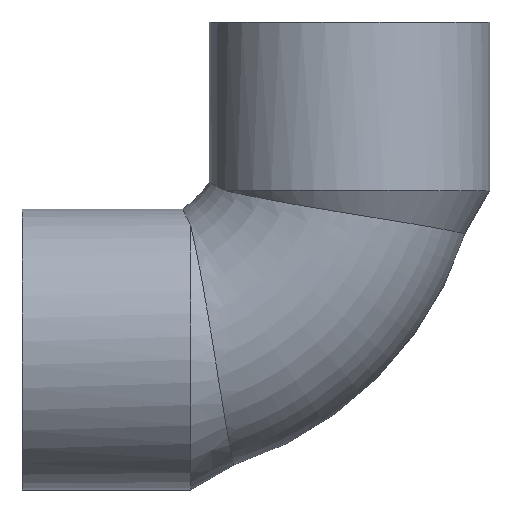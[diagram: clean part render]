
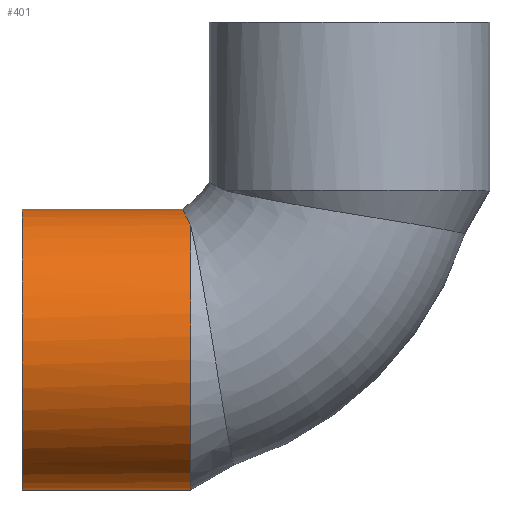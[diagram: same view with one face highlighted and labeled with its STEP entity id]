
A CAD part, top view. The second image highlights one B-rep face of the part: STEP entity #401.
In plain terms, the highlighted cylindrical face has radius 15.4 mm (diameter 30.8 mm), a partial arc.
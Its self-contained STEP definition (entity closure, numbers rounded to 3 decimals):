
#191=CARTESIAN_POINT('',(6.18,-9.1,0.));
#192=VERTEX_POINT('',#191);
#311=CARTESIAN_POINT('',(7.075,-39.9,0.));
#312=VERTEX_POINT('',#311);
#319=CARTESIAN_POINT('',(7.075,-10.855,7.139));
#320=VERTEX_POINT('',#319);
#342=CARTESIAN_POINT('',(7.075,-24.5,0.0));
#343=DIRECTION('',(-1.0,0.0,0.0));
#344=DIRECTION('',(0.0,-1.0,0.0));
#345=AXIS2_PLACEMENT_3D('',#342,#343,#344);
#346=CIRCLE('',#345,15.4);
#347=EDGE_CURVE('',#312,#320,#346,.T.);
#352=CARTESIAN_POINT('',(-2.162,-24.5,0.0));
#353=DIRECTION('',(-1.0,0.,0.0));
#354=DIRECTION('',(0.0,-1.0,0.0));
#355=AXIS2_PLACEMENT_3D('',#352,#353,#354);
#356=CYLINDRICAL_SURFACE('',#355,15.4);
#357=CARTESIAN_POINT('',(-11.4,-39.9,0.));
#358=VERTEX_POINT('',#357);
#359=CARTESIAN_POINT('',(7.075,-39.9,0.));
#360=DIRECTION('',(-1.0,0.0,0.0));
#361=VECTOR('',#360,18.475);
#362=LINE('',#359,#361);
#363=EDGE_CURVE('',#312,#358,#362,.T.);
#364=ORIENTED_EDGE('',*,*,#363,.F.);
#365=ORIENTED_EDGE('',*,*,#347,.T.);
#366=CARTESIAN_POINT('',(6.18,-9.1,0.));
#367=CARTESIAN_POINT('',(6.18,-9.1,0.722));
#368=CARTESIAN_POINT('',(6.204,-9.151,1.444));
#369=CARTESIAN_POINT('',(6.376,-9.501,3.919));
#370=CARTESIAN_POINT('',(6.643,-10.055,5.61));
#371=CARTESIAN_POINT('',(7.075,-10.855,7.139));
#372=B_SPLINE_CURVE_WITH_KNOTS('',3,(#366,#367,#368,#369,#370,#371),.UNSPECIFIED.,.F.,.U.,(4,2,4),(-0.75,-0.533,0.0),.UNSPECIFIED.);
#373=EDGE_CURVE('',#192,#320,#372,.T.);
#374=ORIENTED_EDGE('',*,*,#373,.F.);
#375=CARTESIAN_POINT('',(-11.4,-9.1,0.));
#376=VERTEX_POINT('',#375);
#377=CARTESIAN_POINT('',(-11.4,-9.1,0.));
#378=DIRECTION('',(1.0,0.0,0.0));
#379=VECTOR('',#378,17.58);
#380=LINE('',#377,#379);
#381=EDGE_CURVE('',#376,#192,#380,.T.);
#382=ORIENTED_EDGE('',*,*,#381,.F.);
#383=CARTESIAN_POINT('',(-11.4,-35.389,10.889));
#384=VERTEX_POINT('',#383);
#385=CARTESIAN_POINT('',(-11.4,-24.5,0.0));
#386=DIRECTION('',(-1.0,0.0,0.0));
#387=DIRECTION('',(0.0,-1.0,0.0));
#388=AXIS2_PLACEMENT_3D('',#385,#386,#387);
#389=CIRCLE('',#388,15.4);
#390=EDGE_CURVE('',#384,#376,#389,.T.);
#391=ORIENTED_EDGE('',*,*,#390,.F.);
#392=CARTESIAN_POINT('',(-11.4,-24.5,0.0));
#393=DIRECTION('',(-1.0,0.0,0.0));
#394=DIRECTION('',(0.0,-1.0,0.0));
#395=AXIS2_PLACEMENT_3D('',#392,#393,#394);
#396=CIRCLE('',#395,15.4);
#397=EDGE_CURVE('',#358,#384,#396,.T.);
#398=ORIENTED_EDGE('',*,*,#397,.F.);
#399=EDGE_LOOP('',(#364,#365,#374,#382,#391,#398));
#400=FACE_OUTER_BOUND('',#399,.T.);
#401=ADVANCED_FACE('',(#400),#356,.T.);
